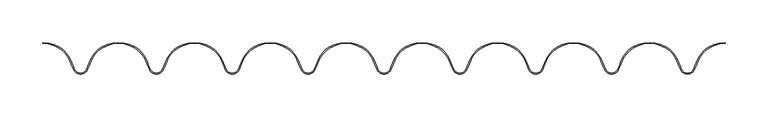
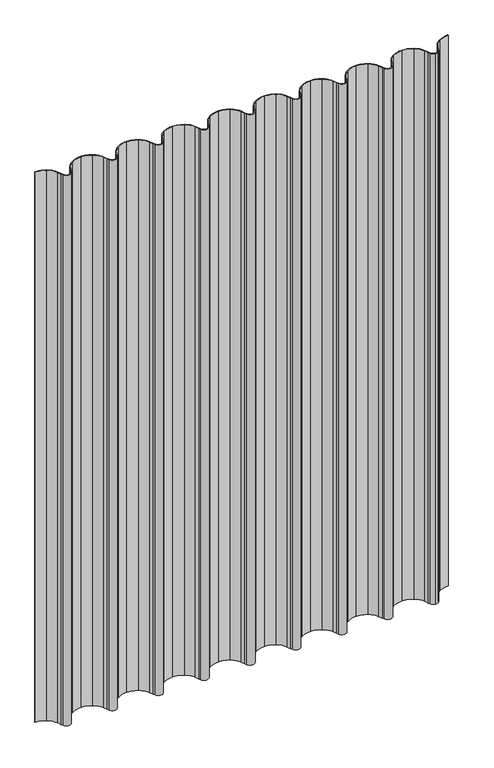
"""IFC4 building model written with IfcOpenShell, lengths in millimetres: plate geometry, Regolare Vertical 801 : Regolare Vertical 801."""

from ifc_helpers import new_model, si_unit, point, frame_2d, origin, origin_with_axes, place, context, project, spatial, polyline, circle_curve, trimmed, segment, composite_curve, outline, extrude, source, transform, mapped, element, save


def plate_f928da12(model_context):
    return source(origin(), model_context, "Body", "SweptSolid", [
        extrude(outline(composite_curve([segment(trimmed(circle_curve(frame_2d((397.1660556, -32.6206681)), 30.6166783), [point((381.1909507, -6.5021495))], [point((368.7389658, -21.2504634))], True, "CARTESIAN"), True, "CONTINUOUS"), segment(polyline([(368.7389658, -21.2504634), (365.8573799, -28.4448583), (364.1967551, -31.9093405)]), True, "CONTINUOUS"), segment(trimmed(circle_curve(frame_2d((356.2059563, -28.0791236)), 8.8613445), [point((364.1967551, -31.9093405))], [point((356.2059563, -36.9404682))], False, "CARTESIAN"), True, "CONTINUOUS"), segment(trimmed(circle_curve(frame_2d((356.2059563, -28.0791236)), 8.8613445), [point((356.2059563, -36.9404682))], [point((348.2151575, -31.9093405))], False, "CARTESIAN"), True, "CONTINUOUS"), segment(polyline([(348.2151575, -31.9093405), (346.5545328, -28.4448583), (343.6729469, -21.2504634)]), True, "CONTINUOUS"), segment(trimmed(circle_curve(frame_2d((315.245857, -32.6206681)), 30.6166783), [point((343.6729469, -21.2504634))], [point((331.2209619, -6.5021495))], True, "CARTESIAN"), True, "CONTINUOUS"), segment(trimmed(circle_curve(frame_2d((311.6802118, -38.4503244)), 37.4503244), [point((331.2209619, -6.5021495))], [point((311.6802118, -1.0))], True, "CARTESIAN"), True, "CONTINUOUS"), segment(trimmed(circle_curve(frame_2d((311.6802118, -38.4503244)), 37.4503244), [point((311.6802118, -1.0))], [point((292.1394616, -6.5021495))], True, "CARTESIAN"), True, "CONTINUOUS"), segment(trimmed(circle_curve(frame_2d((308.1145665, -32.6206681)), 30.6166783), [point((292.1394616, -6.5021495))], [point((279.6874767, -21.2504634))], True, "CARTESIAN"), True, "CONTINUOUS"), segment(polyline([(279.6874767, -21.2504634), (276.8058908, -28.4448583), (275.1452661, -31.9093405)]), True, "CONTINUOUS"), segment(trimmed(circle_curve(frame_2d((267.1544672, -28.0791236)), 8.8613445), [point((275.1452661, -31.9093405))], [point((259.1636684, -31.9093405))], False, "CARTESIAN"), True, "CONTINUOUS"), segment(polyline([(259.1636684, -31.9093405), (257.5030437, -28.4448583), (254.6214578, -21.2504634)]), True, "CONTINUOUS"), segment(trimmed(circle_curve(frame_2d((226.1943679, -32.6206681)), 30.6166783), [point((254.6214578, -21.2504634))], [point((242.1694728, -6.5021495))], True, "CARTESIAN"), True, "CONTINUOUS"), segment(trimmed(circle_curve(frame_2d((222.6287227, -38.4503244)), 37.4503244), [point((242.1694728, -6.5021495))], [point((222.6287227, -1.0))], True, "CARTESIAN"), True, "CONTINUOUS"), segment(trimmed(circle_curve(frame_2d((222.6287227, -38.4503244)), 37.4503244), [point((222.6287227, -1.0))], [point((203.0879726, -6.5021495))], True, "CARTESIAN"), True, "CONTINUOUS"), segment(trimmed(circle_curve(frame_2d((219.0630775, -32.6206681)), 30.6166783), [point((203.0879726, -6.5021495))], [point((190.6359876, -21.2504634))], True, "CARTESIAN"), True, "CONTINUOUS"), segment(polyline([(190.6359876, -21.2504634), (187.7544017, -28.4448583), (186.093777, -31.9093405)]), True, "CONTINUOUS"), segment(trimmed(circle_curve(frame_2d((178.1029782, -28.0791236)), 8.8613445), [point((186.093777, -31.9093405))], [point((170.1121793, -31.9093405))], False, "CARTESIAN"), True, "CONTINUOUS"), segment(polyline([(170.1121793, -31.9093405), (168.4515546, -28.4448583), (165.5699687, -21.2504634)]), True, "CONTINUOUS"), segment(trimmed(circle_curve(frame_2d((137.1428789, -32.6206681)), 30.6166783), [point((165.5699687, -21.2504634))], [point((153.1179838, -6.5021495))], True, "CARTESIAN"), True, "CONTINUOUS"), segment(trimmed(circle_curve(frame_2d((133.5772336, -38.4503244)), 37.4503244), [point((153.1179838, -6.5021495))], [point((133.5772336, -1.0))], True, "CARTESIAN"), True, "CONTINUOUS"), segment(trimmed(circle_curve(frame_2d((133.5772336, -38.4503244)), 37.4503244), [point((133.5772336, -1.0))], [point((114.0364835, -6.5021495))], True, "CARTESIAN"), True, "CONTINUOUS"), segment(trimmed(circle_curve(frame_2d((130.0115884, -32.6206681)), 30.6166783), [point((114.0364835, -6.5021495))], [point((101.5844985, -21.2504634))], True, "CARTESIAN"), True, "CONTINUOUS"), segment(polyline([(101.5844985, -21.2504634), (98.7029126, -28.4448583), (97.0422879, -31.9093405)]), True, "CONTINUOUS"), segment(trimmed(circle_curve(frame_2d((89.0514891, -28.0791236)), 8.8613445), [point((97.0422879, -31.9093405))], [point((81.0606903, -31.9093405))], False, "CARTESIAN"), True, "CONTINUOUS"), segment(polyline([(81.0606903, -31.9093405), (79.4000655, -28.4448583), (76.5184796, -21.2504634)]), True, "CONTINUOUS"), segment(trimmed(circle_curve(frame_2d((48.0913898, -32.6206681)), 30.6166783), [point((76.5184796, -21.2504634))], [point((64.0664947, -6.5021495))], True, "CARTESIAN"), True, "CONTINUOUS"), segment(trimmed(circle_curve(frame_2d((44.5257445, -38.4503244)), 37.4503244), [point((64.0664947, -6.5021495))], [point((44.5257445, -1.0))], True, "CARTESIAN"), True, "CONTINUOUS"), segment(trimmed(circle_curve(frame_2d((44.5257445, -38.4503244)), 37.4503244), [point((44.5257445, -1.0))], [point((24.9849944, -6.5021495))], True, "CARTESIAN"), True, "CONTINUOUS"), segment(trimmed(circle_curve(frame_2d((40.9600993, -32.6206681)), 30.6166783), [point((24.9849944, -6.5021495))], [point((12.5330095, -21.2504634))], True, "CARTESIAN"), True, "CONTINUOUS"), segment(polyline([(12.5330095, -21.2504634), (9.6514235, -28.4448583), (7.9907988, -31.9093405)]), True, "CONTINUOUS"), segment(trimmed(circle_curve(frame_2d((0.0, -28.0791236)), 8.8613445), [point((7.9907988, -31.9093405))], [point((-7.9907988, -31.9093405))], False, "CARTESIAN"), True, "CONTINUOUS"), segment(polyline([(-7.9907988, -31.9093405), (-9.6514235, -28.4448583), (-12.5330095, -21.2504633)]), True, "CONTINUOUS"), segment(trimmed(circle_curve(frame_2d((-40.9600993, -32.6206681)), 30.6166783), [point((-12.5330095, -21.2504633))], [point((-24.9849944, -6.5021495))], True, "CARTESIAN"), True, "CONTINUOUS"), segment(trimmed(circle_curve(frame_2d((-44.5257445, -38.4503244)), 37.4503244), [point((-24.9849944, -6.5021495))], [point((-44.5257445, -1.0))], True, "CARTESIAN"), True, "CONTINUOUS"), segment(trimmed(circle_curve(frame_2d((-44.5257445, -38.4503244)), 37.4503244), [point((-44.5257445, -1.0))], [point((-64.0664947, -6.5021495))], True, "CARTESIAN"), True, "CONTINUOUS"), segment(trimmed(circle_curve(frame_2d((-48.0913898, -32.6206681)), 30.6166783), [point((-64.0664947, -6.5021495))], [point((-76.5184796, -21.2504634))], True, "CARTESIAN"), True, "CONTINUOUS"), segment(polyline([(-76.5184796, -21.2504634), (-79.4000655, -28.4448583), (-81.0606903, -31.9093405)]), True, "CONTINUOUS"), segment(trimmed(circle_curve(frame_2d((-89.0514891, -28.0791236)), 8.8613445), [point((-81.0606903, -31.9093405))], [point((-97.0422879, -31.9093405))], False, "CARTESIAN"), True, "CONTINUOUS"), segment(polyline([(-97.0422879, -31.9093405), (-98.7029126, -28.4448583), (-101.5844985, -21.2504634)]), True, "CONTINUOUS"), segment(trimmed(circle_curve(frame_2d((-130.0115884, -32.6206681)), 30.6166783), [point((-101.5844985, -21.2504634))], [point((-114.0364835, -6.5021495))], True, "CARTESIAN"), True, "CONTINUOUS"), segment(trimmed(circle_curve(frame_2d((-133.5772336, -38.4503244)), 37.4503244), [point((-114.0364835, -6.5021495))], [point((-133.5772336, -1.0))], True, "CARTESIAN"), True, "CONTINUOUS"), segment(trimmed(circle_curve(frame_2d((-133.5772336, -38.4503244)), 37.4503244), [point((-133.5772336, -1.0))], [point((-153.1179838, -6.5021495))], True, "CARTESIAN"), True, "CONTINUOUS"), segment(trimmed(circle_curve(frame_2d((-137.1428789, -32.6206681)), 30.6166783), [point((-153.1179838, -6.5021495))], [point((-165.5699687, -21.2504634))], True, "CARTESIAN"), True, "CONTINUOUS"), segment(polyline([(-165.5699687, -21.2504634), (-168.4515546, -28.4448583), (-170.1121793, -31.9093405)]), True, "CONTINUOUS"), segment(trimmed(circle_curve(frame_2d((-178.1029782, -28.0791236)), 8.8613445), [point((-170.1121793, -31.9093405))], [point((-186.093777, -31.9093405))], False, "CARTESIAN"), True, "CONTINUOUS"), segment(polyline([(-186.093777, -31.9093405), (-187.7544017, -28.4448583), (-190.6359876, -21.2504635)]), True, "CONTINUOUS"), segment(trimmed(circle_curve(frame_2d((-219.0630775, -32.6206681)), 30.6166783), [point((-190.6359876, -21.2504635))], [point((-203.0879726, -6.5021495))], True, "CARTESIAN"), True, "CONTINUOUS"), segment(trimmed(circle_curve(frame_2d((-222.6287227, -38.4503244)), 37.4503244), [point((-203.0879726, -6.5021495))], [point((-222.6287227, -1.0))], True, "CARTESIAN"), True, "CONTINUOUS"), segment(trimmed(circle_curve(frame_2d((-222.6287227, -38.4503244)), 37.4503244), [point((-222.6287227, -1.0))], [point((-242.1694728, -6.5021495))], True, "CARTESIAN"), True, "CONTINUOUS"), segment(trimmed(circle_curve(frame_2d((-226.1943679, -32.6206681)), 30.6166783), [point((-242.1694728, -6.5021495))], [point((-254.6214578, -21.2504635))], True, "CARTESIAN"), True, "CONTINUOUS"), segment(polyline([(-254.6214578, -21.2504635), (-257.5030437, -28.4448583), (-259.1636684, -31.9093405)]), True, "CONTINUOUS"), segment(trimmed(circle_curve(frame_2d((-267.1544672, -28.0791236)), 8.8613445), [point((-259.1636684, -31.9093405))], [point((-275.1452661, -31.9093405))], False, "CARTESIAN"), True, "CONTINUOUS"), segment(polyline([(-275.1452661, -31.9093405), (-276.8058908, -28.4448583), (-279.6874767, -21.2504635)]), True, "CONTINUOUS"), segment(trimmed(circle_curve(frame_2d((-308.1145665, -32.6206681)), 30.6166783), [point((-279.6874767, -21.2504635))], [point((-292.1394616, -6.5021495))], True, "CARTESIAN"), True, "CONTINUOUS"), segment(trimmed(circle_curve(frame_2d((-311.6802118, -38.4503244)), 37.4503244), [point((-292.1394616, -6.5021495))], [point((-311.6802118, -1.0))], True, "CARTESIAN"), True, "CONTINUOUS"), segment(trimmed(circle_curve(frame_2d((-311.6802118, -38.4503244)), 37.4503244), [point((-311.6802118, -1.0))], [point((-331.2209619, -6.5021495))], True, "CARTESIAN"), True, "CONTINUOUS"), segment(trimmed(circle_curve(frame_2d((-315.245857, -32.6206681)), 30.6166783), [point((-331.2209619, -6.5021495))], [point((-343.6729469, -21.2504635))], True, "CARTESIAN"), True, "CONTINUOUS"), segment(polyline([(-343.6729469, -21.2504635), (-346.5545328, -28.4448583), (-348.2151575, -31.9093405)]), True, "CONTINUOUS"), segment(trimmed(circle_curve(frame_2d((-356.2059563, -28.0791236)), 8.8613445), [point((-348.2151575, -31.9093405))], [point((-364.1967551, -31.9093405))], False, "CARTESIAN"), True, "CONTINUOUS"), segment(polyline([(-364.1967551, -31.9093405), (-365.8573799, -28.4448583), (-368.7389658, -21.2504634)]), True, "CONTINUOUS"), segment(trimmed(circle_curve(frame_2d((-397.1660556, -32.6206681)), 30.6166783), [point((-368.7389658, -21.2504634))], [point((-381.1909507, -6.5021495))], True, "CARTESIAN"), True, "CONTINUOUS"), segment(trimmed(circle_curve(frame_2d((-400.7317009, -38.4503244)), 37.4503244), [point((-381.1909507, -6.5021495))], [point((-400.7317009, -1.0))], True, "CARTESIAN"), True, "CONTINUOUS"), segment(polyline([(-400.7317009, -1.0), (-400.7317009, 0.0)]), True, "CONTINUOUS"), segment(trimmed(circle_curve(frame_2d((-400.7317009, -38.4503244)), 38.4503244), [point((-400.7317009, 0.0))], [point((-380.6691729, -5.6490681))], False, "CARTESIAN"), True, "CONTINUOUS"), segment(trimmed(circle_curve(frame_2d((-397.1660556, -32.6206681)), 31.6166783), [point((-380.6691729, -5.6490681))], [point((-367.8105713, -20.8788671))], False, "CARTESIAN"), True, "CONTINUOUS"), segment(polyline([(-367.8105713, -20.8788671), (-364.9413497, -28.0423924), (-363.294996, -31.4771017)]), True, "CONTINUOUS"), segment(trimmed(circle_curve(frame_2d((-356.2059563, -28.0791236)), 7.8613445), [point((-363.294996, -31.4771017))], [point((-349.1169167, -31.4771017))], True, "CARTESIAN"), True, "CONTINUOUS"), segment(polyline([(-349.1169167, -31.4771017), (-347.470563, -28.0423924), (-344.6013413, -20.878867)]), True, "CONTINUOUS"), segment(trimmed(circle_curve(frame_2d((-315.245857, -32.6206681)), 31.6166783), [point((-344.6013413, -20.878867))], [point((-331.7427398, -5.6490681))], False, "CARTESIAN"), True, "CONTINUOUS"), segment(trimmed(circle_curve(frame_2d((-311.6802118, -38.4503244)), 38.4503244), [point((-331.7427398, -5.6490681))], [point((-311.6802118, 0.0))], False, "CARTESIAN"), True, "CONTINUOUS"), segment(trimmed(circle_curve(frame_2d((-311.6802118, -38.4503244)), 38.4503244), [point((-311.6802118, 0.0))], [point((-291.6176838, -5.6490681))], False, "CARTESIAN"), True, "CONTINUOUS"), segment(trimmed(circle_curve(frame_2d((-308.1145665, -32.6206681)), 31.6166783), [point((-291.6176838, -5.6490681))], [point((-278.7590823, -20.878867))], False, "CARTESIAN"), True, "CONTINUOUS"), segment(polyline([(-278.7590823, -20.878867), (-275.8898606, -28.0423924), (-274.2435069, -31.4771017)]), True, "CONTINUOUS"), segment(trimmed(circle_curve(frame_2d((-267.1544672, -28.0791236)), 7.8613445), [point((-274.2435069, -31.4771017))], [point((-260.0654276, -31.4771017))], True, "CARTESIAN"), True, "CONTINUOUS"), segment(polyline([(-260.0654276, -31.4771017), (-258.4190739, -28.0423924), (-255.5498521, -20.8788668)]), True, "CONTINUOUS"), segment(trimmed(circle_curve(frame_2d((-226.1943679, -32.6206681)), 31.6166783), [point((-255.5498521, -20.8788668))], [point((-242.6912507, -5.6490681))], False, "CARTESIAN"), True, "CONTINUOUS"), segment(trimmed(circle_curve(frame_2d((-222.6287227, -38.4503244)), 38.4503244), [point((-242.6912507, -5.6490681))], [point((-222.6287227, 0.0))], False, "CARTESIAN"), True, "CONTINUOUS"), segment(trimmed(circle_curve(frame_2d((-222.6287227, -38.4503244)), 38.4503244), [point((-222.6287227, 0.0))], [point((-202.5661947, -5.6490681))], False, "CARTESIAN"), True, "CONTINUOUS"), segment(trimmed(circle_curve(frame_2d((-219.0630775, -32.6206681)), 31.6166783), [point((-202.5661947, -5.6490681))], [point((-189.7075932, -20.878867))], False, "CARTESIAN"), True, "CONTINUOUS"), segment(polyline([(-189.7075932, -20.878867), (-186.8383715, -28.0423924), (-185.1920178, -31.4771017)]), True, "CONTINUOUS"), segment(trimmed(circle_curve(frame_2d((-178.1029782, -28.0791236)), 7.8613445), [point((-185.1920178, -31.4771017))], [point((-171.0139385, -31.4771017))], True, "CARTESIAN"), True, "CONTINUOUS"), segment(polyline([(-171.0139385, -31.4771017), (-169.3675848, -28.0423924), (-166.4983631, -20.878867)]), True, "CONTINUOUS"), segment(trimmed(circle_curve(frame_2d((-137.1428789, -32.6206681)), 31.6166783), [point((-166.4983631, -20.878867))], [point((-153.6397616, -5.6490681))], False, "CARTESIAN"), True, "CONTINUOUS"), segment(trimmed(circle_curve(frame_2d((-133.5772336, -38.4503244)), 38.4503244), [point((-153.6397616, -5.6490681))], [point((-133.5772336, 0.0))], False, "CARTESIAN"), True, "CONTINUOUS"), segment(trimmed(circle_curve(frame_2d((-133.5772336, -38.4503244)), 38.4503244), [point((-133.5772336, 0.0))], [point((-113.5147056, -5.6490681))], False, "CARTESIAN"), True, "CONTINUOUS"), segment(trimmed(circle_curve(frame_2d((-130.0115884, -32.6206681)), 31.6166783), [point((-113.5147056, -5.6490681))], [point((-100.6561041, -20.878867))], False, "CARTESIAN"), True, "CONTINUOUS"), segment(polyline([(-100.6561041, -20.878867), (-97.7868824, -28.0423924), (-96.1405287, -31.4771017)]), True, "CONTINUOUS"), segment(trimmed(circle_curve(frame_2d((-89.0514891, -28.0791236)), 7.8613445), [point((-96.1405287, -31.4771017))], [point((-81.9624494, -31.4771017))], True, "CARTESIAN"), True, "CONTINUOUS"), segment(polyline([(-81.9624494, -31.4771017), (-80.3160957, -28.0423924), (-77.4468741, -20.8788671)]), True, "CONTINUOUS"), segment(trimmed(circle_curve(frame_2d((-48.0913898, -32.6206681)), 31.6166783), [point((-77.4468741, -20.8788671))], [point((-64.5882725, -5.6490681))], False, "CARTESIAN"), True, "CONTINUOUS"), segment(trimmed(circle_curve(frame_2d((-44.5257445, -38.4503244)), 38.4503244), [point((-64.5882725, -5.6490681))], [point((-44.5257445, 0.0))], False, "CARTESIAN"), True, "CONTINUOUS"), segment(trimmed(circle_curve(frame_2d((-44.5257445, -38.4503244)), 38.4503244), [point((-44.5257445, 0.0))], [point((-24.4632165, -5.6490681))], False, "CARTESIAN"), True, "CONTINUOUS"), segment(trimmed(circle_curve(frame_2d((-40.9600993, -32.6206681)), 31.6166783), [point((-24.4632165, -5.6490681))], [point((-11.6046151, -20.878867))], False, "CARTESIAN"), True, "CONTINUOUS"), segment(polyline([(-11.6046151, -20.878867), (-8.7353934, -28.0423924), (-7.0890396, -31.4771017)]), True, "CONTINUOUS"), segment(trimmed(circle_curve(frame_2d((0.0, -28.0791236)), 7.8613445), [point((-7.0890396, -31.4771017))], [point((7.0890396, -31.4771017))], True, "CARTESIAN"), True, "CONTINUOUS"), segment(polyline([(7.0890396, -31.4771017), (8.7353934, -28.0423924), (11.6046151, -20.878867)]), True, "CONTINUOUS"), segment(trimmed(circle_curve(frame_2d((40.9600993, -32.6206681)), 31.6166783), [point((11.6046151, -20.878867))], [point((24.4632165, -5.6490681))], False, "CARTESIAN"), True, "CONTINUOUS"), segment(trimmed(circle_curve(frame_2d((44.5257445, -38.4503244)), 38.4503244), [point((24.4632165, -5.6490681))], [point((44.5257445, 0.0))], False, "CARTESIAN"), True, "CONTINUOUS"), segment(trimmed(circle_curve(frame_2d((44.5257445, -38.4503244)), 38.4503244), [point((44.5257445, 0.0))], [point((64.5882725, -5.6490681))], False, "CARTESIAN"), True, "CONTINUOUS"), segment(trimmed(circle_curve(frame_2d((48.0913898, -32.6206681)), 31.6166783), [point((64.5882725, -5.6490681))], [point((77.4468741, -20.8788673))], False, "CARTESIAN"), True, "CONTINUOUS"), segment(polyline([(77.4468741, -20.8788673), (80.3160957, -28.0423924), (81.9624494, -31.4771017)]), True, "CONTINUOUS"), segment(trimmed(circle_curve(frame_2d((89.0514891, -28.0791236)), 7.8613445), [point((81.9624494, -31.4771017))], [point((96.1405287, -31.4771017))], True, "CARTESIAN"), True, "CONTINUOUS"), segment(polyline([(96.1405287, -31.4771017), (97.7868824, -28.0423924), (100.6561042, -20.8788669)]), True, "CONTINUOUS"), segment(trimmed(circle_curve(frame_2d((130.0115884, -32.6206681)), 31.6166783), [point((100.6561042, -20.8788669))], [point((113.5147056, -5.6490681))], False, "CARTESIAN"), True, "CONTINUOUS"), segment(trimmed(circle_curve(frame_2d((133.5772336, -38.4503244)), 38.4503244), [point((113.5147056, -5.6490681))], [point((133.5772336, 0.0))], False, "CARTESIAN"), True, "CONTINUOUS"), segment(trimmed(circle_curve(frame_2d((133.5772336, -38.4503244)), 38.4503244), [point((133.5772336, 0.0))], [point((153.6397616, -5.6490681))], False, "CARTESIAN"), True, "CONTINUOUS"), segment(trimmed(circle_curve(frame_2d((137.1428789, -32.6206681)), 31.6166783), [point((153.6397616, -5.6490681))], [point((166.4983631, -20.8788669))], False, "CARTESIAN"), True, "CONTINUOUS"), segment(polyline([(166.4983631, -20.8788669), (169.3675848, -28.0423924), (171.0139385, -31.4771017)]), True, "CONTINUOUS"), segment(trimmed(circle_curve(frame_2d((178.1029782, -28.0791236)), 7.8613445), [point((171.0139385, -31.4771017))], [point((185.1920178, -31.4771017))], True, "CARTESIAN"), True, "CONTINUOUS"), segment(polyline([(185.1920178, -31.4771017), (186.8383715, -28.0423924), (189.7075932, -20.878867)]), True, "CONTINUOUS"), segment(trimmed(circle_curve(frame_2d((219.0630775, -32.6206681)), 31.6166783), [point((189.7075932, -20.878867))], [point((202.5661947, -5.6490681))], False, "CARTESIAN"), True, "CONTINUOUS"), segment(trimmed(circle_curve(frame_2d((222.6287227, -38.4503244)), 38.4503244), [point((202.5661947, -5.6490681))], [point((222.6287227, 0.0))], False, "CARTESIAN"), True, "CONTINUOUS"), segment(trimmed(circle_curve(frame_2d((222.6287227, -38.4503244)), 38.4503244), [point((222.6287227, 0.0))], [point((242.6912507, -5.6490681))], False, "CARTESIAN"), True, "CONTINUOUS"), segment(trimmed(circle_curve(frame_2d((226.1943679, -32.6206681)), 31.6166783), [point((242.6912507, -5.6490681))], [point((255.5498522, -20.878867))], False, "CARTESIAN"), True, "CONTINUOUS"), segment(polyline([(255.5498522, -20.878867), (258.4190739, -28.0423924), (260.0654276, -31.4771017)]), True, "CONTINUOUS"), segment(trimmed(circle_curve(frame_2d((267.1544672, -28.0791236)), 7.8613445), [point((260.0654276, -31.4771017))], [point((274.2435069, -31.4771017))], True, "CARTESIAN"), True, "CONTINUOUS"), segment(polyline([(274.2435069, -31.4771017), (275.8898606, -28.0423924), (278.7590823, -20.8788669)]), True, "CONTINUOUS"), segment(trimmed(circle_curve(frame_2d((308.1145665, -32.6206681)), 31.6166783), [point((278.7590823, -20.8788669))], [point((291.6176838, -5.6490681))], False, "CARTESIAN"), True, "CONTINUOUS"), segment(trimmed(circle_curve(frame_2d((311.6802118, -38.4503244)), 38.4503244), [point((291.6176838, -5.6490681))], [point((311.6802118, 0.0))], False, "CARTESIAN"), True, "CONTINUOUS"), segment(trimmed(circle_curve(frame_2d((311.6802118, -38.4503244)), 38.4503244), [point((311.6802118, 0.0))], [point((331.7427398, -5.6490681))], False, "CARTESIAN"), True, "CONTINUOUS"), segment(trimmed(circle_curve(frame_2d((315.245857, -32.6206681)), 31.6166783), [point((331.7427398, -5.6490681))], [point((344.6013413, -20.8788671))], False, "CARTESIAN"), True, "CONTINUOUS"), segment(polyline([(344.6013413, -20.8788671), (347.470563, -28.0423924), (349.1169167, -31.4771017)]), True, "CONTINUOUS"), segment(trimmed(circle_curve(frame_2d((356.2059563, -28.0791236)), 7.8613445), [point((349.1169167, -31.4771017))], [point((356.2059563, -35.9404682))], True, "CARTESIAN"), True, "CONTINUOUS"), segment(trimmed(circle_curve(frame_2d((356.2059563, -28.0791236)), 7.8613445), [point((356.2059563, -35.9404682))], [point((363.294996, -31.4771017))], True, "CARTESIAN"), True, "CONTINUOUS"), segment(polyline([(363.294996, -31.4771017), (364.9413497, -28.0423924), (367.8105714, -20.878867)]), True, "CONTINUOUS"), segment(trimmed(circle_curve(frame_2d((397.1660556, -32.6206681)), 31.6166783), [point((367.8105714, -20.878867))], [point((380.6691729, -5.6490681))], False, "CARTESIAN"), True, "CONTINUOUS"), segment(trimmed(circle_curve(frame_2d((400.7317009, -38.4503244)), 38.4503244), [point((380.6691729, -5.6490681))], [point((400.7317009, 0.0))], False, "CARTESIAN"), True, "CONTINUOUS"), segment(polyline([(400.7317009, 0.0), (400.7317009, -1.0)]), True, "CONTINUOUS"), segment(trimmed(circle_curve(frame_2d((400.7317009, -38.4503244)), 37.4503244), [point((400.7317009, -1.0))], [point((381.1909507, -6.5021495))], True, "CARTESIAN"), True, "CONTINUOUS")], self_intersect=False)), origin_with_axes(), (0.0, 0.0, 1.0), 1129.2760479),
    ])


if __name__ == "__main__":
    model = new_model("IFC4")
    model_context = context("Model", 3, world=origin())
    ifc_project = project(units=[si_unit("LENGTHUNIT", "METRE", prefix="MILLI")], contexts=[model_context])
    site = spatial("IfcSite", under=ifc_project)
    building = spatial("IfcBuilding", under=site)
    placement = place(None, origin())
    plate_shape = plate_f928da12(model_context)
    element("IfcPlate", 1, ObjectType="Regolare Vertical 801 : Regolare Vertical 801", at=placement, inside=building, context=model_context, shape_type="MappedRepresentation", body=[
        mapped(plate_shape, transform((0.0, 0.0, 0.0), x_axis=(1.0, 0.0, 0.0), y_axis=(0.0, 1.0, 0.0), z_axis=(0.0, 0.0, 1.0))),
    ])
    save(model, "model.ifc")
